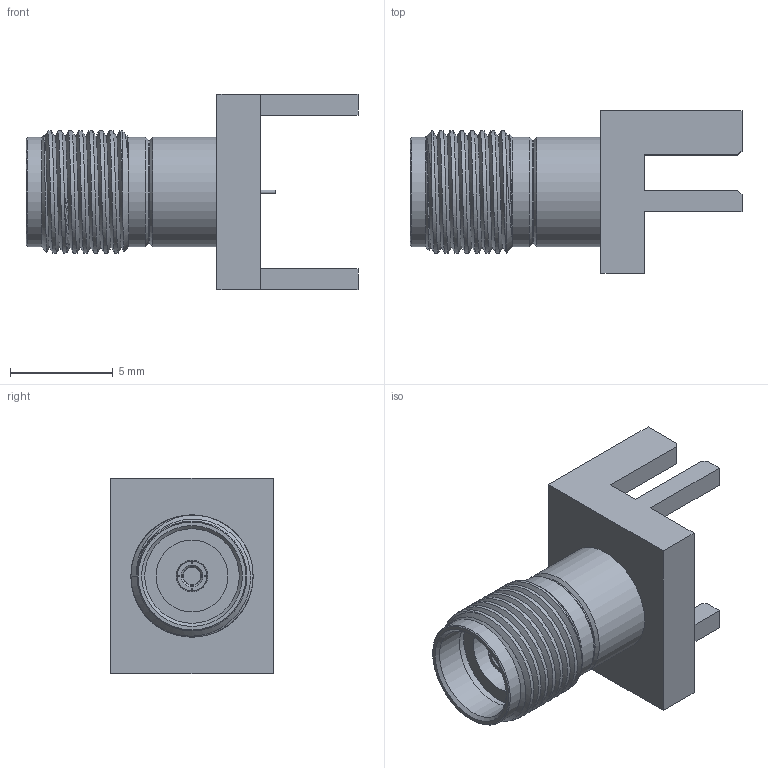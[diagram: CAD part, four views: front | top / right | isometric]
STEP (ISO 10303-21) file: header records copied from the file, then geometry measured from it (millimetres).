
FILE_DESCRIPTION (( 'STEP AP214' ), '1' );
FILE_NAME ('OL TMB-E5FS-1S1.STEP', '2021-06-25T03:33:13', ( '' ), ( '' ), 'SwSTEP 2.0', 'SolidWorks 2019', '' );
FILE_SCHEMA (( 'AUTOMOTIVE_DESIGN' ));
Length unit declared in the file: millimetre
Products named in the file (1): OL TMB-E5FS-1S1
Bounding box: 16.17 x 7.92 x 9.52 mm (x, y, z)
Volume: 357.7 mm3; surface area: 624.5 mm2
Topology: 1 solids, 1 shells, 83 faces, 239 edges, 164 vertices
Faces by surface type: plane 42, cone 23, cylinder 11, torus 5, bspline 2
Full cylindrical faces by diameter (mm): 0.178 x1, 0.97 x1, 1.52 x1, 3.5 x1, 4.61 x1, 4.85 x1, 5.35 x3
Entity records: 4321 total; most frequent: CARTESIAN_POINT 2314, ORIENTED_EDGE 432, DIRECTION 364, EDGE_CURVE 216, VERTEX_POINT 158, AXIS2_PLACEMENT_3D 137, EDGE_LOOP 104, FACE_OUTER_BOUND 92
